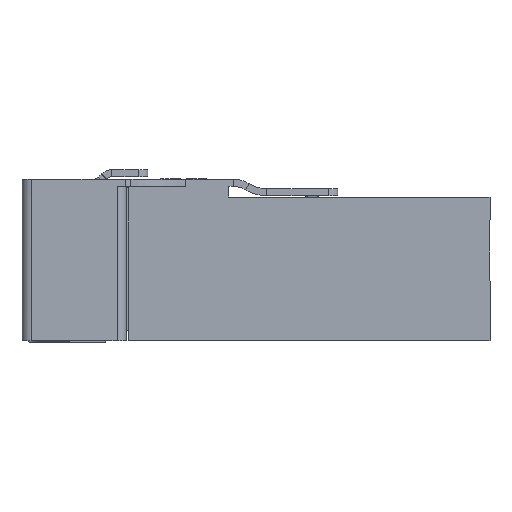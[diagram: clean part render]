
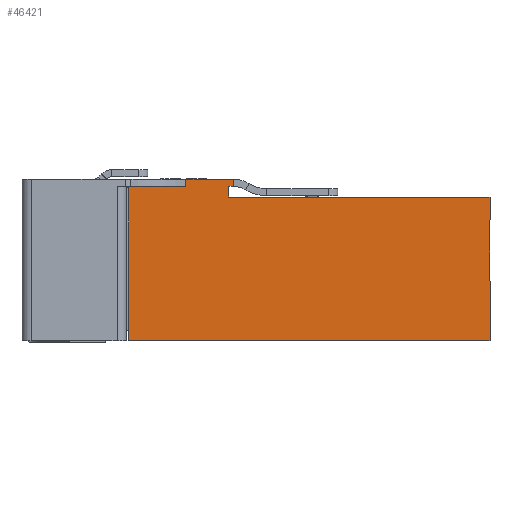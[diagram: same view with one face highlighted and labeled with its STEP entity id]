
A CAD part, front view. The second image highlights one B-rep face of the part: STEP entity #46421.
In plain terms, the highlighted planar face has unit normal (0, -1, 0).
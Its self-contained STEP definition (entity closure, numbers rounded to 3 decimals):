
#46335=AXIS2_PLACEMENT_3D('Plane Axis2P3D',#46332,#46333,#46334) ;
#46365=AXIS2_PLACEMENT_3D('Circle Axis2P3D',#46363,#46364,$) ;
#46379=AXIS2_PLACEMENT_3D('Circle Axis2P3D',#46377,#46378,$) ;
#462=CARTESIAN_POINT('Vertex',(-7.7,-11.,-3.265)) ;
#1591=CARTESIAN_POINT('Line Origine',(-7.7,-11.,-0.264)) ;
#1595=CARTESIAN_POINT('Vertex',(-7.7,-11.,2.736)) ;
#44232=CARTESIAN_POINT('Vertex',(-5.3,-11.,3.1)) ;
#44235=CARTESIAN_POINT('Line Origine',(-7.75,-11.,3.1)) ;
#44239=CARTESIAN_POINT('Vertex',(-3.3,-11.,3.1)) ;
#44416=CARTESIAN_POINT('Vertex',(-3.5,-11.,2.8)) ;
#44430=CARTESIAN_POINT('Vertex',(-3.3,-11.,2.8)) ;
#44433=CARTESIAN_POINT('Line Origine',(-3.4,-11.,2.8)) ;
#44487=CARTESIAN_POINT('Vertex',(-7.7,-11.,2.8)) ;
#44490=CARTESIAN_POINT('Line Origine',(-6.5,-11.,2.8)) ;
#44494=CARTESIAN_POINT('Vertex',(-5.3,-11.,2.8)) ;
#45841=CARTESIAN_POINT('Line Origine',(-3.3,-11.,2.95)) ;
#46205=CARTESIAN_POINT('Line Origine',(-5.3,-11.,2.95)) ;
#46332=CARTESIAN_POINT('Axis2P3D Location',(-4.3,-11.,2.8)) ;
#46337=CARTESIAN_POINT('Line Origine',(-7.7,-11.,2.768)) ;
#46342=CARTESIAN_POINT('Line Origine',(-7.7,-11.,-3.482)) ;
#46346=CARTESIAN_POINT('Vertex',(-7.7,-11.,-3.7)) ;
#46349=CARTESIAN_POINT('Line Origine',(-0.1,-11.,-3.7)) ;
#46353=CARTESIAN_POINT('Vertex',(7.5,-11.,-3.7)) ;
#46356=CARTESIAN_POINT('Line Origine',(7.5,-11.,-2.45)) ;
#46360=CARTESIAN_POINT('Vertex',(7.5,-11.,-1.2)) ;
#46363=CARTESIAN_POINT('Axis2P3D Location',(7.,-11.,-1.2)) ;
#46367=CARTESIAN_POINT('Vertex',(7.484,-11.,-1.076)) ;
#46370=CARTESIAN_POINT('Line Origine',(7.484,-11.,0.1)) ;
#46374=CARTESIAN_POINT('Vertex',(7.484,-11.,1.276)) ;
#46377=CARTESIAN_POINT('Axis2P3D Location',(7.,-11.,1.4)) ;
#46381=CARTESIAN_POINT('Vertex',(7.5,-11.,1.4)) ;
#46384=CARTESIAN_POINT('Line Origine',(7.5,-11.,1.875)) ;
#46388=CARTESIAN_POINT('Vertex',(7.5,-11.,2.35)) ;
#46391=CARTESIAN_POINT('Line Origine',(2.,-11.,2.35)) ;
#46395=CARTESIAN_POINT('Vertex',(-3.5,-11.,2.35)) ;
#46398=CARTESIAN_POINT('Line Origine',(-3.5,-11.,2.575)) ;
#1592=DIRECTION('Vector Direction',(0.,0.,1.)) ;
#44236=DIRECTION('Vector Direction',(-1.,0.,0.)) ;
#44434=DIRECTION('Vector Direction',(-1.,0.,0.)) ;
#44491=DIRECTION('Vector Direction',(1.,0.,0.)) ;
#45842=DIRECTION('Vector Direction',(0.,0.,-1.)) ;
#46206=DIRECTION('Vector Direction',(0.,0.,1.)) ;
#46333=DIRECTION('Axis2P3D Direction',(-0.,-1.,-0.)) ;
#46334=DIRECTION('Axis2P3D XDirection',(-1.,0.,0.)) ;
#46338=DIRECTION('Vector Direction',(0.,0.,1.)) ;
#46343=DIRECTION('Vector Direction',(0.,0.,1.)) ;
#46350=DIRECTION('Vector Direction',(1.,0.,0.)) ;
#46357=DIRECTION('Vector Direction',(0.,0.,1.)) ;
#46364=DIRECTION('Axis2P3D Direction',(-0.,-1.,-0.)) ;
#46371=DIRECTION('Vector Direction',(0.,0.,-1.)) ;
#46378=DIRECTION('Axis2P3D Direction',(-0.,-1.,-0.)) ;
#46385=DIRECTION('Vector Direction',(0.,0.,1.)) ;
#46392=DIRECTION('Vector Direction',(1.,0.,0.)) ;
#46399=DIRECTION('Vector Direction',(0.,0.,1.)) ;
#1593=VECTOR('Line Direction',#1592,1.) ;
#44237=VECTOR('Line Direction',#44236,1.) ;
#44435=VECTOR('Line Direction',#44434,1.) ;
#44492=VECTOR('Line Direction',#44491,1.) ;
#45843=VECTOR('Line Direction',#45842,1.) ;
#46207=VECTOR('Line Direction',#46206,1.) ;
#46339=VECTOR('Line Direction',#46338,1.) ;
#46344=VECTOR('Line Direction',#46343,1.) ;
#46351=VECTOR('Line Direction',#46350,1.) ;
#46358=VECTOR('Line Direction',#46357,1.) ;
#46372=VECTOR('Line Direction',#46371,1.) ;
#46386=VECTOR('Line Direction',#46385,1.) ;
#46393=VECTOR('Line Direction',#46392,1.) ;
#46400=VECTOR('Line Direction',#46399,1.) ;
#46404=ORIENTED_EDGE('',*,*,#44437,.F.) ;
#46405=ORIENTED_EDGE('',*,*,#45845,.F.) ;
#46406=ORIENTED_EDGE('',*,*,#44241,.T.) ;
#46407=ORIENTED_EDGE('',*,*,#46209,.F.) ;
#46408=ORIENTED_EDGE('',*,*,#44496,.F.) ;
#46409=ORIENTED_EDGE('',*,*,#46341,.F.) ;
#46410=ORIENTED_EDGE('',*,*,#1597,.F.) ;
#46411=ORIENTED_EDGE('',*,*,#46348,.F.) ;
#46412=ORIENTED_EDGE('',*,*,#46355,.F.) ;
#46413=ORIENTED_EDGE('',*,*,#46362,.T.) ;
#46414=ORIENTED_EDGE('',*,*,#46369,.T.) ;
#46415=ORIENTED_EDGE('',*,*,#46376,.F.) ;
#46416=ORIENTED_EDGE('',*,*,#46383,.T.) ;
#46417=ORIENTED_EDGE('',*,*,#46390,.T.) ;
#46418=ORIENTED_EDGE('',*,*,#46397,.F.) ;
#46419=ORIENTED_EDGE('',*,*,#46402,.T.) ;
#46421=ADVANCED_FACE('Hauptk\X2\00F6\X0\rper',(#46420),#46336,.T.) ;
#46366=CIRCLE('generated circle',#46365,0.5) ;
#46380=CIRCLE('generated circle',#46379,0.5) ;
#1597=EDGE_CURVE('',#463,#1596,#1594,.T.) ;
#44241=EDGE_CURVE('',#44240,#44233,#44238,.T.) ;
#44437=EDGE_CURVE('',#44431,#44417,#44436,.T.) ;
#44496=EDGE_CURVE('',#44488,#44495,#44493,.T.) ;
#45845=EDGE_CURVE('',#44240,#44431,#45844,.T.) ;
#46209=EDGE_CURVE('',#44495,#44233,#46208,.T.) ;
#46341=EDGE_CURVE('',#1596,#44488,#46340,.T.) ;
#46348=EDGE_CURVE('',#46347,#463,#46345,.T.) ;
#46355=EDGE_CURVE('',#46354,#46347,#46352,.F.) ;
#46362=EDGE_CURVE('',#46354,#46361,#46359,.T.) ;
#46369=EDGE_CURVE('',#46361,#46368,#46366,.T.) ;
#46376=EDGE_CURVE('',#46375,#46368,#46373,.T.) ;
#46383=EDGE_CURVE('',#46375,#46382,#46380,.T.) ;
#46390=EDGE_CURVE('',#46382,#46389,#46387,.T.) ;
#46397=EDGE_CURVE('',#46396,#46389,#46394,.T.) ;
#46402=EDGE_CURVE('',#46396,#44417,#46401,.T.) ;
#46403=EDGE_LOOP('',(#46404,#46405,#46406,#46407,#46408,#46409,#46410,#46411,#46412,#46413,#46414,#46415,#46416,#46417,#46418,#46419)) ;
#46420=FACE_OUTER_BOUND('',#46403,.T.) ;
#1594=LINE('Line',#1591,#1593) ;
#44238=LINE('Line',#44235,#44237) ;
#44436=LINE('Line',#44433,#44435) ;
#44493=LINE('Line',#44490,#44492) ;
#45844=LINE('Line',#45841,#45843) ;
#46208=LINE('Line',#46205,#46207) ;
#46340=LINE('Line',#46337,#46339) ;
#46345=LINE('Line',#46342,#46344) ;
#46352=LINE('Line',#46349,#46351) ;
#46359=LINE('Line',#46356,#46358) ;
#46373=LINE('Line',#46370,#46372) ;
#46387=LINE('Line',#46384,#46386) ;
#46394=LINE('Line',#46391,#46393) ;
#46401=LINE('Line',#46398,#46400) ;
#46336=PLANE('',#46335) ;
#463=VERTEX_POINT('',#462) ;
#1596=VERTEX_POINT('',#1595) ;
#44233=VERTEX_POINT('',#44232) ;
#44240=VERTEX_POINT('',#44239) ;
#44417=VERTEX_POINT('',#44416) ;
#44431=VERTEX_POINT('',#44430) ;
#44488=VERTEX_POINT('',#44487) ;
#44495=VERTEX_POINT('',#44494) ;
#46347=VERTEX_POINT('',#46346) ;
#46354=VERTEX_POINT('',#46353) ;
#46361=VERTEX_POINT('',#46360) ;
#46368=VERTEX_POINT('',#46367) ;
#46375=VERTEX_POINT('',#46374) ;
#46382=VERTEX_POINT('',#46381) ;
#46389=VERTEX_POINT('',#46388) ;
#46396=VERTEX_POINT('',#46395) ;
